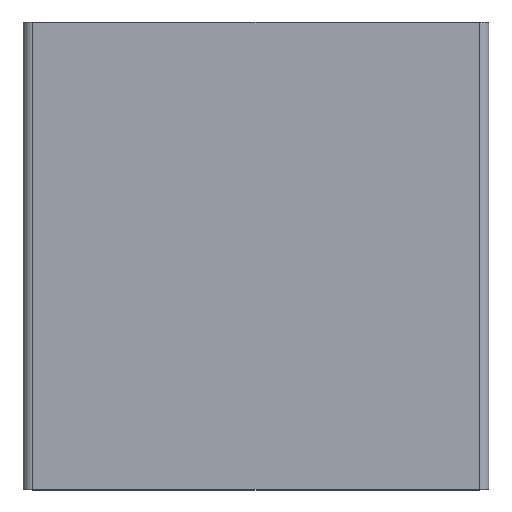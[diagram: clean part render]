
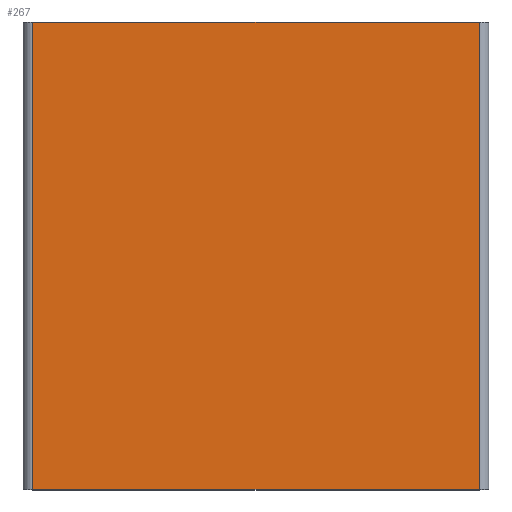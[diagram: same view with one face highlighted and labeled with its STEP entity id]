
A CAD part, top view. The second image highlights one B-rep face of the part: STEP entity #267.
In plain terms, the highlighted planar face has unit normal (0, 0, 1).
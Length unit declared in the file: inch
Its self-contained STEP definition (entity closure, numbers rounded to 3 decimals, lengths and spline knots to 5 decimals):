
#39=FACE_OUTER_BOUND('',#54,.T.);
#54=EDGE_LOOP('',(#223,#224,#225,#226));
#77=LINE('',#427,#105);
#82=LINE('',#443,#110);
#83=LINE('',#447,#111);
#84=LINE('',#448,#112);
#105=VECTOR('',#347,0.3937);
#110=VECTOR('',#364,0.3937);
#111=VECTOR('',#369,0.3937);
#112=VECTOR('',#370,0.3937);
#130=VERTEX_POINT('',#424);
#131=VERTEX_POINT('',#426);
#136=VERTEX_POINT('',#442);
#137=VERTEX_POINT('',#446);
#160=EDGE_CURVE('',#130,#131,#77,.T.);
#168=EDGE_CURVE('',#131,#136,#82,.T.);
#170=EDGE_CURVE('',#137,#130,#83,.T.);
#171=EDGE_CURVE('',#136,#137,#84,.T.);
#223=ORIENTED_EDGE('',*,*,#168,.F.);
#224=ORIENTED_EDGE('',*,*,#160,.F.);
#225=ORIENTED_EDGE('',*,*,#170,.F.);
#226=ORIENTED_EDGE('',*,*,#171,.F.);
#254=PLANE('',#302);
#267=ADVANCED_FACE('',(#39),#254,.T.);
#302=AXIS2_PLACEMENT_3D('',#445,#367,#368);
#347=DIRECTION('',(1.,0.,0.));
#364=DIRECTION('',(0.,-1.,0.));
#367=DIRECTION('center_axis',(0.,0.,1.));
#368=DIRECTION('ref_axis',(1.,0.,0.));
#369=DIRECTION('',(0.,1.,0.));
#370=DIRECTION('',(-1.,0.,0.));
#424=CARTESIAN_POINT('',(-1.4375,3.01,1.5));
#426=CARTESIAN_POINT('',(1.4375,3.01,1.5));
#427=CARTESIAN_POINT('',(1.5,3.01,1.5));
#442=CARTESIAN_POINT('',(1.4375,0.,1.5));
#443=CARTESIAN_POINT('',(1.4375,0.,1.5));
#445=CARTESIAN_POINT('Origin',(-1.5,0.,1.5));
#446=CARTESIAN_POINT('',(-1.4375,0.,1.5));
#447=CARTESIAN_POINT('',(-1.4375,0.,1.5));
#448=CARTESIAN_POINT('',(1.5,0.,1.5));
